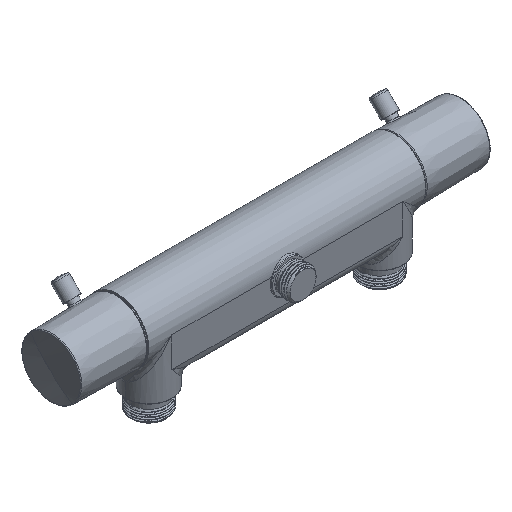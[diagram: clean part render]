
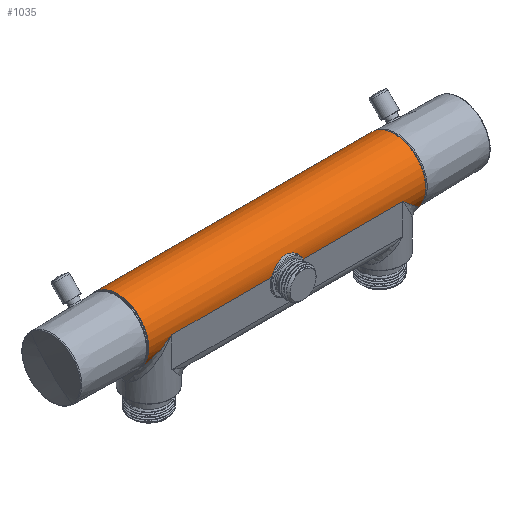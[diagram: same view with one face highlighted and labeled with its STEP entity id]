
A CAD part, isometric view. The second image highlights one B-rep face of the part: STEP entity #1035.
In plain terms, the highlighted cylindrical face has radius 21.75 mm (diameter 43.5 mm), a partial arc.
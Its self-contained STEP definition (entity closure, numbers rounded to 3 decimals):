
#20=CARTESIAN_POINT('',(96.,0.,0.));
#21=DIRECTION('',(-1.,0.,0.));
#22=DIRECTION('',(0.,-0.775,-0.632));
#23=AXIS2_PLACEMENT_3D('',#20,#21,#22);
#286=CARTESIAN_POINT('',(96.,-16.85,-13.753));
#287=CARTESIAN_POINT('',(95.587,-17.152,-13.382));
#288=CARTESIAN_POINT('',(94.708,-17.752,-12.599));
#289=CARTESIAN_POINT('',(93.19,-18.629,-11.264));
#290=CARTESIAN_POINT('',(91.584,-19.405,-9.867));
#291=CARTESIAN_POINT('',(89.948,-20.058,-8.456));
#292=CARTESIAN_POINT('',(88.328,-20.587,-7.068));
#293=CARTESIAN_POINT('',(86.669,-21.021,-5.652));
#294=CARTESIAN_POINT('',(84.82,-21.386,-4.08));
#295=CARTESIAN_POINT('',(82.677,-21.663,-2.264));
#296=CARTESIAN_POINT('',(80.937,-21.75,
-0.792));
#297=CARTESIAN_POINT('',(80.,-21.75,0.));
#299=DIRECTION('',(-1.,0.,0.));
#300=VECTOR('',#299,69.038);
#301=CARTESIAN_POINT('',(80.,-21.75,0.));
#302=LINE('',#301,#300);
#303=CARTESIAN_POINT('',(10.962,-21.75,0.));
#304=CARTESIAN_POINT('',(10.67,-21.75,0.712));
#305=CARTESIAN_POINT('',(9.959,-21.681,2.056));
#306=CARTESIAN_POINT('',(8.519,-21.43,3.844));
#307=CARTESIAN_POINT('',(6.73,-21.097,5.347));
#308=CARTESIAN_POINT('',(4.647,-20.767,6.489));
#309=CARTESIAN_POINT('',(2.346,-20.527,7.196));
#310=CARTESIAN_POINT('',(0.792,-20.47,7.35));
#311=CARTESIAN_POINT('',(0.,-20.47,7.35));
#313=CARTESIAN_POINT('',(0.,-20.47,7.35));
#314=CARTESIAN_POINT('',(-0.792,-20.47,7.35));
#315=CARTESIAN_POINT('',(-2.346,-20.527,7.196));
#316=CARTESIAN_POINT('',(-4.647,-20.767,6.489));
#317=CARTESIAN_POINT('',(-6.73,-21.097,5.347));
#318=CARTESIAN_POINT('',(-8.519,-21.429,3.845));
#319=CARTESIAN_POINT('',(-9.958,-21.681,2.056));
#320=CARTESIAN_POINT('',(-10.67,-21.75,0.712));
#321=CARTESIAN_POINT('',(-10.962,-21.75,0.));
#323=DIRECTION('',(-1.,0.,0.));
#324=VECTOR('',#323,69.038);
#325=CARTESIAN_POINT('',(-10.962,-21.75,0.));
#326=LINE('',#325,#324);
#327=CARTESIAN_POINT('',(-80.,-21.75,0.));
#328=CARTESIAN_POINT('',(-80.918,-21.75,
-0.776));
#329=CARTESIAN_POINT('',(-82.635,-21.666,
-2.229));
#330=CARTESIAN_POINT('',(-84.801,-21.39,
-4.064));
#331=CARTESIAN_POINT('',(-86.696,-21.016,
-5.675));
#332=CARTESIAN_POINT('',(-88.403,-20.566,
-7.132));
#333=CARTESIAN_POINT('',(-90.043,-20.023,
-8.538));
#334=CARTESIAN_POINT('',(-91.66,-19.37,
-9.934));
#335=CARTESIAN_POINT('',(-93.231,-18.606,
-11.3));
#336=CARTESIAN_POINT('',(-94.718,-17.745,
-12.608));
#337=CARTESIAN_POINT('',(-95.589,-17.151,
-13.384));
#338=CARTESIAN_POINT('',(-96.,-16.85,-13.753));
#340=CARTESIAN_POINT('',(-96.,8.151,-20.165));
#341=CARTESIAN_POINT('',(-95.007,8.879,-19.87));
#342=CARTESIAN_POINT('',(-92.925,10.152,-19.268));
#343=CARTESIAN_POINT('',(-89.33,11.647,-18.387));
#344=CARTESIAN_POINT('',(-85.877,12.538,-17.777));
#345=CARTESIAN_POINT('',(-82.671,12.986,-17.449));
#346=CARTESIAN_POINT('',(-79.612,13.098,-17.364));
#347=CARTESIAN_POINT('',(-76.535,12.906,-17.508));
#348=CARTESIAN_POINT('',(-73.291,12.366,-17.901));
#349=CARTESIAN_POINT('',(-69.795,11.333,-18.584));
#350=CARTESIAN_POINT('',(-67.57,10.327,-19.154));
#351=CARTESIAN_POINT('',(-66.47,9.721,-19.457));
#353=DIRECTION('',(1.,0.,0.));
#354=VECTOR('',#353,132.939);
#355=CARTESIAN_POINT('',(-66.47,9.721,-19.457));
#356=LINE('',#355,#354);
#357=CARTESIAN_POINT('',(66.47,9.721,-19.457));
#358=CARTESIAN_POINT('',(67.57,10.327,-19.154));
#359=CARTESIAN_POINT('',(69.795,11.333,-18.584));
#360=CARTESIAN_POINT('',(73.291,12.366,-17.901));
#361=CARTESIAN_POINT('',(76.535,12.906,-17.508));
#362=CARTESIAN_POINT('',(79.612,13.098,-17.364));
#363=CARTESIAN_POINT('',(82.671,12.986,-17.449));
#364=CARTESIAN_POINT('',(85.877,12.538,-17.777));
#365=CARTESIAN_POINT('',(89.33,11.647,-18.387));
#366=CARTESIAN_POINT('',(92.925,10.152,-19.268));
#367=CARTESIAN_POINT('',(95.007,8.879,-19.87));
#368=CARTESIAN_POINT('',(96.,8.151,-20.165));
#654=CARTESIAN_POINT('',(-96.,0.,0.));
#655=DIRECTION('',(1.,0.,0.));
#656=DIRECTION('',(0.,0.375,-0.927));
#657=AXIS2_PLACEMENT_3D('',#654,#655,#656);
#819=CARTESIAN_POINT('',(80.,-21.75,0.));
#820=VERTEX_POINT('',#819);
#821=CARTESIAN_POINT('',(-80.,-21.75,0.));
#822=VERTEX_POINT('',#821);
#823=CARTESIAN_POINT('',(-66.47,9.721,-19.457));
#824=CARTESIAN_POINT('',(66.47,9.721,-19.457));
#825=VERTEX_POINT('',#823);
#826=VERTEX_POINT('',#824);
#827=CARTESIAN_POINT('',(96.,-16.85,-13.753));
#828=CARTESIAN_POINT('',(96.,8.151,-20.165));
#829=VERTEX_POINT('',#827);
#830=VERTEX_POINT('',#828);
#833=VERTEX_POINT('',#313);
#834=VERTEX_POINT('',#321);
#835=VERTEX_POINT('',#303);
#837=VERTEX_POINT('',#338);
#838=VERTEX_POINT('',#340);
#1007=CARTESIAN_POINT('',(-97.5,0.,0.));
#1008=DIRECTION('',(1.,0.,0.));
#1009=DIRECTION('',(0.,0.,1.));
#1010=AXIS2_PLACEMENT_3D('',#1007,#1008,#1009);
#1011=CYLINDRICAL_SURFACE('',#1010,21.75);
#1012=ORIENTED_EDGE('',*,*,#884,.F.);
#1014=ORIENTED_EDGE('',*,*,#1013,.T.);
#1016=ORIENTED_EDGE('',*,*,#1015,.T.);
#1018=ORIENTED_EDGE('',*,*,#1017,.T.);
#1020=ORIENTED_EDGE('',*,*,#1019,.T.);
#1022=ORIENTED_EDGE('',*,*,#1021,.T.);
#1024=ORIENTED_EDGE('',*,*,#1023,.T.);
#1026=ORIENTED_EDGE('',*,*,#1025,.F.);
#1028=ORIENTED_EDGE('',*,*,#1027,.T.);
#1030=ORIENTED_EDGE('',*,*,#1029,.T.);
#1032=ORIENTED_EDGE('',*,*,#1031,.T.);
#1033=EDGE_LOOP('',(#1012,#1014,#1016,#1018,#1020,#1022,#1024,#1026,#1028,#1030,
#1032));
#1034=FACE_OUTER_BOUND('',#1033,.F.);
#24=CIRCLE('',#23,21.75);
#298=B_SPLINE_CURVE_WITH_KNOTS('',3,(#286,#287,#288,#289,#290,#291,#292,#293,
#294,#295,#296,#297),.UNSPECIFIED.,.F.,.F.,(4,1,1,1,1,1,1,1,1,4),(0.,
0.111,0.222,0.333,0.444,
0.556,0.667,0.778,0.889,1.),
.UNSPECIFIED.);
#312=B_SPLINE_CURVE_WITH_KNOTS('',3,(#303,#304,#305,#306,#307,#308,#309,#310,
#311),.UNSPECIFIED.,.F.,.F.,(4,1,1,1,1,1,4),(0.,0.167,
0.333,0.5,0.667,0.833,1.),
.UNSPECIFIED.);
#322=B_SPLINE_CURVE_WITH_KNOTS('',3,(#313,#314,#315,#316,#317,#318,#319,#320,
#321),.UNSPECIFIED.,.F.,.F.,(4,1,1,1,1,1,4),(0.,0.167,
0.333,0.5,0.667,0.833,1.),
.UNSPECIFIED.);
#339=B_SPLINE_CURVE_WITH_KNOTS('',3,(#327,#328,#329,#330,#331,#332,#333,#334,
#335,#336,#337,#338),.UNSPECIFIED.,.F.,.F.,(4,1,1,1,1,1,1,1,1,4),(0.,
0.111,0.222,0.333,0.444,
0.556,0.667,0.778,0.889,1.),
.UNSPECIFIED.);
#352=B_SPLINE_CURVE_WITH_KNOTS('',3,(#340,#341,#342,#343,#344,#345,#346,#347,
#348,#349,#350,#351),.UNSPECIFIED.,.F.,.F.,(4,1,1,1,1,1,1,1,1,4),(0.,
0.111,0.222,0.333,0.444,
0.556,0.667,0.778,0.889,1.),
.UNSPECIFIED.);
#369=B_SPLINE_CURVE_WITH_KNOTS('',3,(#357,#358,#359,#360,#361,#362,#363,#364,
#365,#366,#367,#368),.UNSPECIFIED.,.F.,.F.,(4,1,1,1,1,1,1,1,1,4),(0.,
0.111,0.222,0.333,0.444,
0.556,0.667,0.778,0.889,1.),
.UNSPECIFIED.);
#658=CIRCLE('',#657,21.75);
#884=EDGE_CURVE('',#829,#830,#24,.T.);
#1013=EDGE_CURVE('',#829,#820,#298,.T.);
#1015=EDGE_CURVE('',#820,#835,#302,.T.);
#1017=EDGE_CURVE('',#835,#833,#312,.T.);
#1019=EDGE_CURVE('',#833,#834,#322,.T.);
#1021=EDGE_CURVE('',#834,#822,#326,.T.);
#1023=EDGE_CURVE('',#822,#837,#339,.T.);
#1025=EDGE_CURVE('',#838,#837,#658,.T.);
#1027=EDGE_CURVE('',#838,#825,#352,.T.);
#1029=EDGE_CURVE('',#825,#826,#356,.T.);
#1031=EDGE_CURVE('',#826,#830,#369,.T.);
#1035=ADVANCED_FACE('',(#1034),#1011,.T.);
